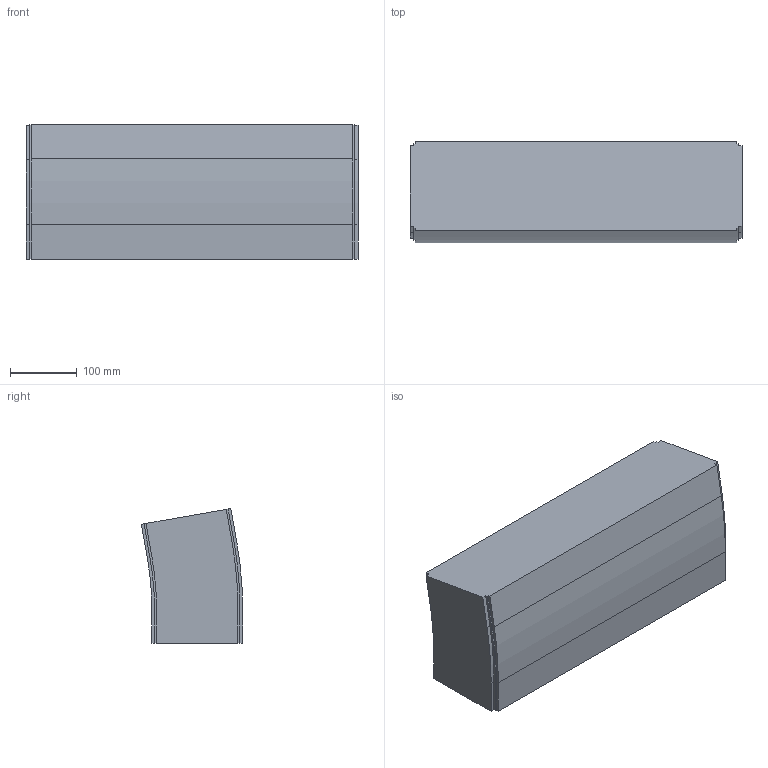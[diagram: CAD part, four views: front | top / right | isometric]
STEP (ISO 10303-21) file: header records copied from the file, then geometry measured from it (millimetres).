
FILE_DESCRIPTION (( 'STEP AP214' ), '1' );
FILE_NAME ('FS-MTC2-150-INOX verticaalbocht.500 10°.STEP', '2017-02-08T12:42:16', ( '' ), ( '' ), 'SwSTEP 2.0', 'SolidWorks 2016', '' );
FILE_SCHEMA (( 'AUTOMOTIVE_DESIGN' ));
Length unit declared in the file: millimetre
Products named in the file (1): FS-MTC2-150-INOX verticaalbocht.500 10°
Bounding box: 499 x 152.18 x 202.88 mm (x, y, z)
Volume: 13056873.2 mm3; surface area: 380191.3 mm2
Topology: 1 solids, 1 shells, 42 faces, 120 edges, 80 vertices
Faces by surface type: plane 32, cylinder 10
Entity records: 1398 total; most frequent: CARTESIAN_POINT 243, ORIENTED_EDGE 240, DIRECTION 226, EDGE_CURVE 120, LINE 100, VECTOR 100, VERTEX_POINT 80, AXIS2_PLACEMENT_3D 63
